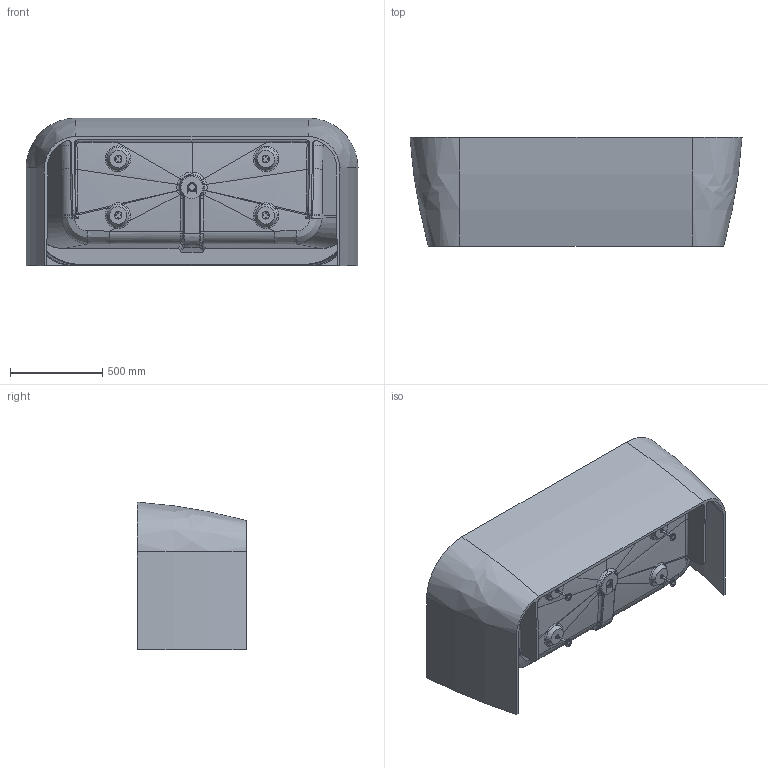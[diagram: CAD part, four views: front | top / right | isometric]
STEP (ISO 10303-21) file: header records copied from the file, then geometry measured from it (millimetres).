
FILE_DESCRIPTION((''),'2;1');
FILE_NAME('CD003459_ASM','2026-07-27T16:00:39',('Presotto.Paolo'),('Ronal group'),'CREO PARAMETRIC BY PTC INC, 2024401','CREO PARAMETRIC BY PTC INC, 2024401','');
FILE_SCHEMA(('CONFIG_CONTROL_DESIGN'));
Length unit declared in the file: millimetre
Products named in the file (12): PILETTA_1_1_1_1_2_3; VASCA_DA_BAGNO_CENTRALE_1800X_2; VASCA_DA_BAGNO_CENTRALE_1800X_3; VASCA_DA_BAGNO_CENTRALE_1800X_4; VASCA_DA_BAGNO_CENTRALE_1800X_5; VASCA_DA_BAGNO_CENTRALE_1800X_1_ASM; PIEDINO_130MM_1_1_2_3; DADO_EF_DB_M10_ZN_UNI6923_1_1_4; PIEDINO_BULLONE_D130_H95_1_AS_5_ASM; PIEDINO_BULLONE_D130_H95_ASM__4_ASM; ASS_GUADALUPE_ASM_1_1_ASM_1_ASM; CD003459_ASM
Assembly tree (15 placements, depth 5):
  CD003459_ASM
    ASS_GUADALUPE_ASM_1_1_ASM_1_ASM
      PILETTA_1_1_1_1_2_3
      VASCA_DA_BAGNO_CENTRALE_1800X_1_ASM
        VASCA_DA_BAGNO_CENTRALE_1800X_2
        VASCA_DA_BAGNO_CENTRALE_1800X_3
        VASCA_DA_BAGNO_CENTRALE_1800X_4
        VASCA_DA_BAGNO_CENTRALE_1800X_5
      PIEDINO_BULLONE_D130_H95_ASM__4_ASM  x4
        PIEDINO_BULLONE_D130_H95_1_AS_5_ASM
          PIEDINO_130MM_1_1_2_3
          DADO_EF_DB_M10_ZN_UNI6923_1_1_4  x2
Bounding box: 1800 x 591 x 800.62 mm (x, y, z)
Volume: 130216.6 mm3; surface area: 8056345.5 mm2
Topology: 17 solids, 18 shells, 1099 faces, 3016 edges, 1970 vertices
Faces by surface type: cylinder 432, bspline 315, plane 175, cone 118, torus 41, sphere 11, extrusion 5, revolution 2
Entity records: 39460 total; most frequent: CARTESIAN_POINT 28059, ORIENTED_EDGE 2734, DIRECTION 1679, EDGE_CURVE 1376, VERTEX_POINT 861, B_SPLINE_CURVE_WITH_KNOTS 744, AXIS2_PLACEMENT_3D 673, EDGE_LOOP 570
